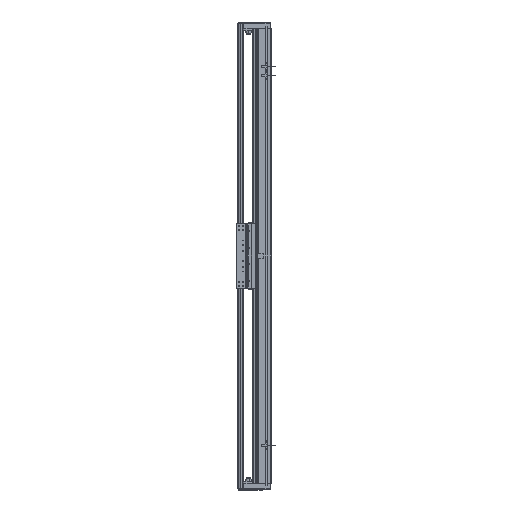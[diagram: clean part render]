
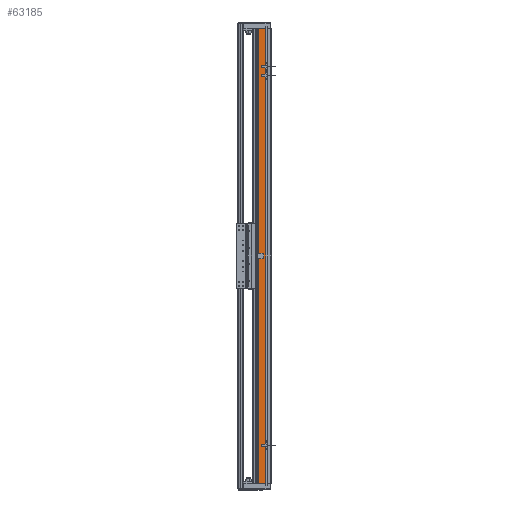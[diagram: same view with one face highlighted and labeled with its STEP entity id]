
A CAD part, left-side view. The second image highlights one B-rep face of the part: STEP entity #63185.
In plain terms, the highlighted planar face has unit normal (-1, 0, 0).
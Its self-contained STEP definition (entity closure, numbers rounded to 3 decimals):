
#8076 = DIRECTION ( 'NONE',  ( 1., 0., 0. ) ) ;
#11963 = VERTEX_POINT ( 'NONE', #62661 ) ;
#13834 = DIRECTION ( 'NONE',  ( 0., 0., -1. ) ) ;
#14827 = LINE ( 'NONE', #106669, #35818 ) ;
#22353 = EDGE_CURVE ( 'NONE', #29014, #77580, #117731, .T. ) ;
#22573 = ORIENTED_EDGE ( 'NONE', *, *, #122464, .F. ) ;
#22972 = EDGE_CURVE ( 'NONE', #77580, #11963, #14827, .T. ) ;
#26127 = DIRECTION ( 'NONE',  ( 0., -1., 0. ) ) ;
#29014 = VERTEX_POINT ( 'NONE', #62836 ) ;
#32530 = DIRECTION ( 'NONE',  ( 0., -1., 0. ) ) ;
#35818 = VECTOR ( 'NONE', #26127, 1000. ) ;
#48961 = CARTESIAN_POINT ( 'NONE',  ( -97.5, 14.45, 660. ) ) ;
#57492 = VERTEX_POINT ( 'NONE', #48961 ) ;
#58448 = ORIENTED_EDGE ( 'NONE', *, *, #104289, .F. ) ;
#59764 = CARTESIAN_POINT ( 'NONE',  ( -97.5, 36.95, 660. ) ) ;
#62661 = CARTESIAN_POINT ( 'NONE',  ( -97.5, 14.45, -660. ) ) ;
#62836 = CARTESIAN_POINT ( 'NONE',  ( -97.5, 36.95, 660. ) ) ;
#63185 = ADVANCED_FACE ( 'NONE', ( #144401 ), #134578, .F. ) ;
#67329 = CARTESIAN_POINT ( 'NONE',  ( -97.5, 36.95, -660. ) ) ;
#69249 = VECTOR ( 'NONE', #13834, 1000. ) ;
#73602 = VECTOR ( 'NONE', #123902, 1000. ) ;
#75848 = CARTESIAN_POINT ( 'NONE',  ( -97.5, 36.95, 660. ) ) ;
#76506 = CARTESIAN_POINT ( 'NONE',  ( -97.5, 14.45, 660. ) ) ;
#77580 = VERTEX_POINT ( 'NONE', #67329 ) ;
#78075 = DIRECTION ( 'NONE',  ( 0., 1., 0. ) ) ;
#78464 = CARTESIAN_POINT ( 'NONE',  ( -97.5, 36.95, 660. ) ) ;
#78688 = AXIS2_PLACEMENT_3D ( 'NONE', #75848, #8076, #78075 ) ;
#84714 = EDGE_LOOP ( 'NONE', ( #132853, #22573, #58448, #89149 ) ) ;
#87791 = LINE ( 'NONE', #76506, #73602 ) ;
#89149 = ORIENTED_EDGE ( 'NONE', *, *, #22353, .T. ) ;
#89811 = VECTOR ( 'NONE', #32530, 1000. ) ;
#104289 = EDGE_CURVE ( 'NONE', #29014, #57492, #113800, .T. ) ;
#106669 = CARTESIAN_POINT ( 'NONE',  ( -97.5, 36.95, -660. ) ) ;
#113800 = LINE ( 'NONE', #78464, #89811 ) ;
#117731 = LINE ( 'NONE', #59764, #69249 ) ;
#122464 = EDGE_CURVE ( 'NONE', #57492, #11963, #87791, .T. ) ;
#123902 = DIRECTION ( 'NONE',  ( 0., 0., -1. ) ) ;
#132853 = ORIENTED_EDGE ( 'NONE', *, *, #22972, .T. ) ;
#134578 = PLANE ( 'NONE',  #78688 ) ;
#144401 = FACE_OUTER_BOUND ( 'NONE', #84714, .T. ) ;
